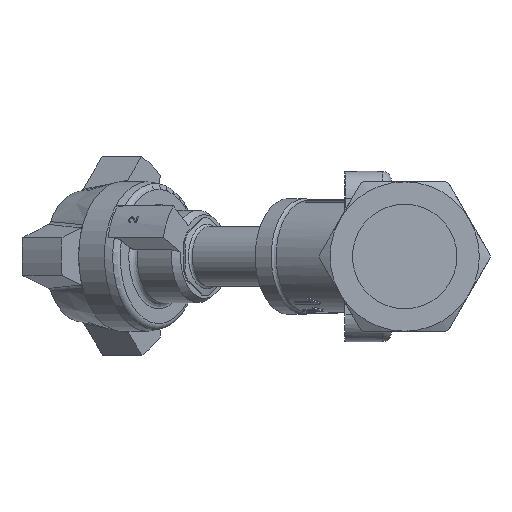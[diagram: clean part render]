
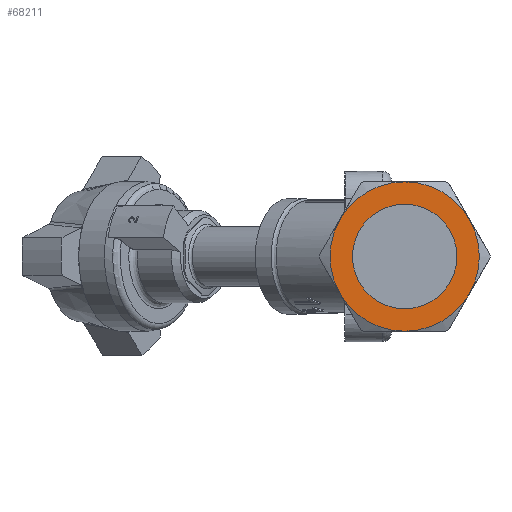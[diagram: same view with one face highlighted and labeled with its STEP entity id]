
A CAD part, left-side view. The second image highlights one B-rep face of the part: STEP entity #68211.
In plain terms, the highlighted planar face has unit normal (-1, 0, 0).
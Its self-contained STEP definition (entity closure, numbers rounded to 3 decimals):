
#59474=CARTESIAN_POINT('',(-114.,-17.5,0.));
#59475=VERTEX_POINT('',#59474);
#59476=CARTESIAN_POINT('',(-114.,0.,0.));
#59477=DIRECTION('',(1.0,0.0,0.0));
#59478=DIRECTION('',(0.0,-1.0,0.0));
#59479=AXIS2_PLACEMENT_3D('',#59476,#59477,#59478);
#59480=CIRCLE('',#59479,17.5);
#59481=EDGE_CURVE('',#59475,#59475,#59480,.T.);
#62998=CARTESIAN_POINT('',(-114.,21.651,12.5));
#62999=VERTEX_POINT('',#62998);
#63044=CARTESIAN_POINT('',(-114.,21.651,-12.5));
#63045=VERTEX_POINT('',#63044);
#63097=CARTESIAN_POINT('',(-114.,0.,-25.));
#63098=VERTEX_POINT('',#63097);
#63150=CARTESIAN_POINT('',(-114.,-21.651,-12.5));
#63151=VERTEX_POINT('',#63150);
#63203=CARTESIAN_POINT('',(-114.,-21.651,12.5));
#63204=VERTEX_POINT('',#63203);
#63256=CARTESIAN_POINT('',(-114.,0.,25.));
#63257=VERTEX_POINT('',#63256);
#63318=CARTESIAN_POINT('',(-114.,0.,0.0));
#63319=DIRECTION('',(-1.0,0.0,0.0));
#63320=DIRECTION('',(0.0,-1.0,0.0));
#63321=AXIS2_PLACEMENT_3D('',#63318,#63319,#63320);
#63322=CIRCLE('',#63321,25.);
#63323=EDGE_CURVE('',#63257,#62999,#63322,.T.);
#63342=CARTESIAN_POINT('',(-114.,0.,0.0));
#63343=DIRECTION('',(-1.0,0.0,0.0));
#63344=DIRECTION('',(0.0,-1.0,0.0));
#63345=AXIS2_PLACEMENT_3D('',#63342,#63343,#63344);
#63346=CIRCLE('',#63345,25.);
#63347=EDGE_CURVE('',#63204,#63257,#63346,.T.);
#63366=CARTESIAN_POINT('',(-114.,0.,0.0));
#63367=DIRECTION('',(-1.0,0.0,0.0));
#63368=DIRECTION('',(0.0,-1.0,0.0));
#63369=AXIS2_PLACEMENT_3D('',#63366,#63367,#63368);
#63370=CIRCLE('',#63369,25.);
#63371=EDGE_CURVE('',#63151,#63204,#63370,.T.);
#63390=CARTESIAN_POINT('',(-114.,0.,0.0));
#63391=DIRECTION('',(-1.0,0.0,0.0));
#63392=DIRECTION('',(0.0,-1.0,0.0));
#63393=AXIS2_PLACEMENT_3D('',#63390,#63391,#63392);
#63394=CIRCLE('',#63393,25.);
#63395=EDGE_CURVE('',#63098,#63151,#63394,.T.);
#63414=CARTESIAN_POINT('',(-114.,0.,0.0));
#63415=DIRECTION('',(-1.0,0.0,0.0));
#63416=DIRECTION('',(0.0,-1.0,0.0));
#63417=AXIS2_PLACEMENT_3D('',#63414,#63415,#63416);
#63418=CIRCLE('',#63417,25.);
#63419=EDGE_CURVE('',#63045,#63098,#63418,.T.);
#68183=CARTESIAN_POINT('',(-114.,0.,0.0));
#68184=DIRECTION('',(-1.0,0.0,0.0));
#68185=DIRECTION('',(0.0,-1.0,0.0));
#68186=AXIS2_PLACEMENT_3D('',#68183,#68184,#68185);
#68187=CIRCLE('',#68186,25.);
#68188=EDGE_CURVE('',#62999,#63045,#68187,.T.);
#68195=CARTESIAN_POINT('',(-114.,-12.5,0.0));
#68196=DIRECTION('',(-1.0,0.0,0.0));
#68197=DIRECTION('',(0.0,0.0,1.0));
#68198=AXIS2_PLACEMENT_3D('',#68195,#68196,#68197);
#68199=PLANE('',#68198);
#68200=ORIENTED_EDGE('',*,*,#63371,.T.);
#68201=ORIENTED_EDGE('',*,*,#63347,.T.);
#68202=ORIENTED_EDGE('',*,*,#63323,.T.);
#68203=ORIENTED_EDGE('',*,*,#68188,.T.);
#68204=ORIENTED_EDGE('',*,*,#63419,.T.);
#68205=ORIENTED_EDGE('',*,*,#63395,.T.);
#68206=EDGE_LOOP('',(#68200,#68201,#68202,#68203,#68204,#68205));
#68207=FACE_OUTER_BOUND('',#68206,.T.);
#68208=ORIENTED_EDGE('',*,*,#59481,.T.);
#68209=EDGE_LOOP('',(#68208));
#68210=FACE_BOUND('',#68209,.T.);
#68211=ADVANCED_FACE('',(#68207,#68210),#68199,.T.);
